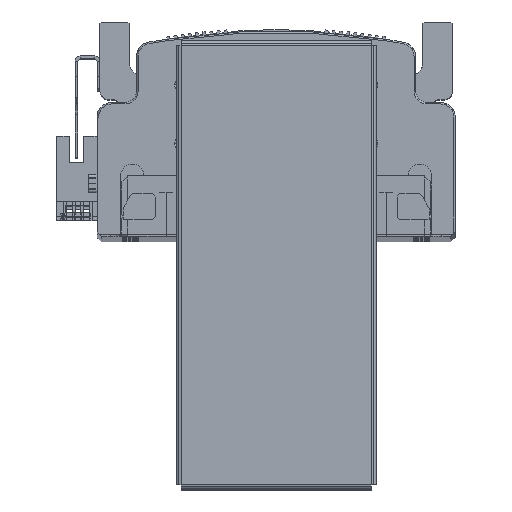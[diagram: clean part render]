
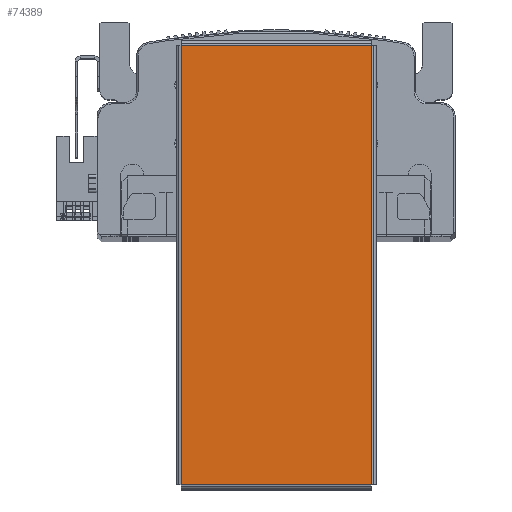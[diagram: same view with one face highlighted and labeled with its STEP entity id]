
A CAD part, top view. The second image highlights one B-rep face of the part: STEP entity #74389.
In plain terms, the highlighted planar face has unit normal (0, 0, 1) as drawn and (0, 0, -1) by its records, which use the part's own axes.
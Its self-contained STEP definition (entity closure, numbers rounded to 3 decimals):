
#49 = DIRECTION ( 'NONE',  ( 0., -1., 0. ) ) ;
#685 = FACE_OUTER_BOUND ( 'NONE', #72298, .T. ) ;
#693 = LINE ( 'NONE', #5501, #701 ) ;
#701 = VECTOR ( 'NONE', #5538, 1000. ) ;
#802 = LINE ( 'NONE', #5833, #806 ) ;
#806 = VECTOR ( 'NONE', #5846, 1000. ) ;
#923 = VECTOR ( 'NONE', #88793, 1000. ) ;
#932 = LINE ( 'NONE', #88774, #923 ) ;
#971 = VECTOR ( 'NONE', #49, 1000. ) ;
#990 = LINE ( 'NONE', #18314, #971 ) ;
#5424 = DIRECTION ( 'NONE',  ( 0., 0., 1. ) ) ;
#5438 = PLANE ( 'NONE',  #30547 ) ;
#5440 = DIRECTION ( 'NONE',  ( 1., 0., 0. ) ) ;
#5494 = CARTESIAN_POINT ( 'NONE',  ( 0., 0., -1. ) ) ;
#5501 = CARTESIAN_POINT ( 'NONE',  ( 74.793, -32.363, -1. ) ) ;
#5538 = DIRECTION ( 'NONE',  ( -1., 0., 0. ) ) ;
#5833 = CARTESIAN_POINT ( 'NONE',  ( -74.793, 32.363, -1. ) ) ;
#5846 = DIRECTION ( 'NONE',  ( 1., 0., 0. ) ) ;
#6815 = CARTESIAN_POINT ( 'NONE',  ( 74.763, 32.363, -1. ) ) ;
#6820 = CARTESIAN_POINT ( 'NONE',  ( 74.763, -32.363, -1. ) ) ;
#6828 = CARTESIAN_POINT ( 'NONE',  ( -74.763, -32.363, -1. ) ) ;
#6874 = CARTESIAN_POINT ( 'NONE',  ( -74.763, 32.363, -1. ) ) ;
#16193 = VERTEX_POINT ( 'NONE', #6815 ) ;
#16209 = VERTEX_POINT ( 'NONE', #6820 ) ;
#16236 = VERTEX_POINT ( 'NONE', #6828 ) ;
#16293 = VERTEX_POINT ( 'NONE', #6874 ) ;
#18314 = CARTESIAN_POINT ( 'NONE',  ( 74.763, 32.393, -1. ) ) ;
#30547 = AXIS2_PLACEMENT_3D ( 'NONE', #5494, #5424, #5440 ) ;
#42342 = ORIENTED_EDGE ( 'NONE', *, *, #74417, .T. ) ;
#42357 = ORIENTED_EDGE ( 'NONE', *, *, #74503, .T. ) ;
#44518 = ORIENTED_EDGE ( 'NONE', *, *, #74622, .T. ) ;
#44532 = ORIENTED_EDGE ( 'NONE', *, *, #74649, .T. ) ;
#72298 = EDGE_LOOP ( 'NONE', ( #44532, #42342, #44518, #42357 ) ) ;
#74389 = ADVANCED_FACE ( 'NONE', ( #685 ), #5438, .F. ) ;
#74417 = EDGE_CURVE ( 'NONE', #16209, #16236, #693, .T. ) ;
#74503 = EDGE_CURVE ( 'NONE', #16293, #16193, #802, .T. ) ;
#74622 = EDGE_CURVE ( 'NONE', #16236, #16293, #932, .T. ) ;
#74649 = EDGE_CURVE ( 'NONE', #16193, #16209, #990, .T. ) ;
#88774 = CARTESIAN_POINT ( 'NONE',  ( -74.763, -32.393, -1. ) ) ;
#88793 = DIRECTION ( 'NONE',  ( 0., 1., 0. ) ) ;
